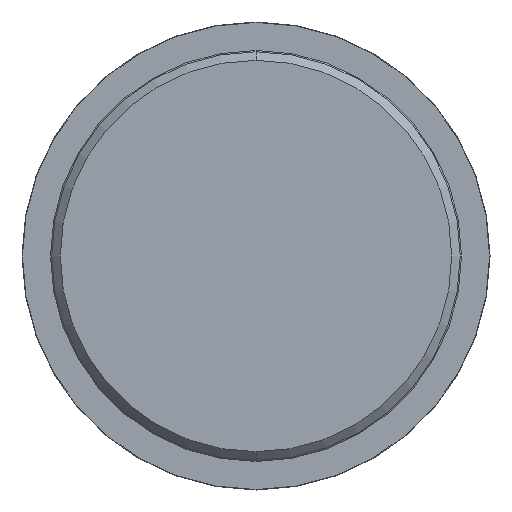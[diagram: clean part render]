
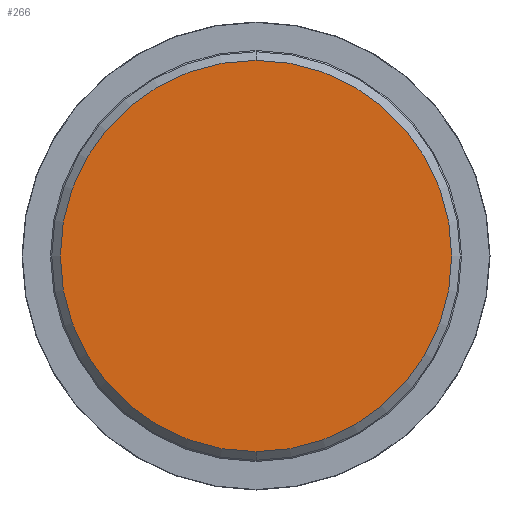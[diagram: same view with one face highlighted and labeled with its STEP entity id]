
A CAD part, front view. The second image highlights one B-rep face of the part: STEP entity #266.
In plain terms, the highlighted planar face has unit normal (0, -1, 0).
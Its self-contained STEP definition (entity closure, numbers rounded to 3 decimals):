
#1 = AXIS2_PLACEMENT_3D ( 'NONE', #903, #226, #451 ) ;
#33 = CIRCLE ( 'NONE', #1, 23. ) ;
#93 = DIRECTION ( 'NONE',  ( 0., 0., 1. ) ) ;
#142 = VERTEX_POINT ( 'NONE', #413 ) ;
#177 = ORIENTED_EDGE ( 'NONE', *, *, #875, .F. ) ;
#226 = DIRECTION ( 'NONE',  ( 0., 1., 0. ) ) ;
#266 = ADVANCED_FACE ( 'NONE', ( #484 ), #763, .F. ) ;
#270 = AXIS2_PLACEMENT_3D ( 'NONE', #399, #550, #307 ) ;
#307 = DIRECTION ( 'NONE',  ( 0., 0., 1. ) ) ;
#319 = AXIS2_PLACEMENT_3D ( 'NONE', #858, #606, #93 ) ;
#399 = CARTESIAN_POINT ( 'NONE',  ( 0., 0., 0. ) ) ;
#413 = CARTESIAN_POINT ( 'NONE',  ( 0., 0., 23. ) ) ;
#451 = DIRECTION ( 'NONE',  ( 0., 0., 1. ) ) ;
#484 = FACE_OUTER_BOUND ( 'NONE', #831, .T. ) ;
#486 = EDGE_CURVE ( 'NONE', #670, #142, #609, .T. ) ;
#550 = DIRECTION ( 'NONE',  ( 0., 1., 0. ) ) ;
#606 = DIRECTION ( 'NONE',  ( 0., 1., 0. ) ) ;
#609 = CIRCLE ( 'NONE', #270, 23. ) ;
#670 = VERTEX_POINT ( 'NONE', #872 ) ;
#744 = ORIENTED_EDGE ( 'NONE', *, *, #486, .F. ) ;
#763 = PLANE ( 'NONE',  #319 ) ;
#831 = EDGE_LOOP ( 'NONE', ( #177, #744 ) ) ;
#858 = CARTESIAN_POINT ( 'NONE',  ( 23., 0., 0. ) ) ;
#872 = CARTESIAN_POINT ( 'NONE',  ( 0., 0., -23. ) ) ;
#875 = EDGE_CURVE ( 'NONE', #142, #670, #33, .T. ) ;
#903 = CARTESIAN_POINT ( 'NONE',  ( 0., 0., 0. ) ) ;
